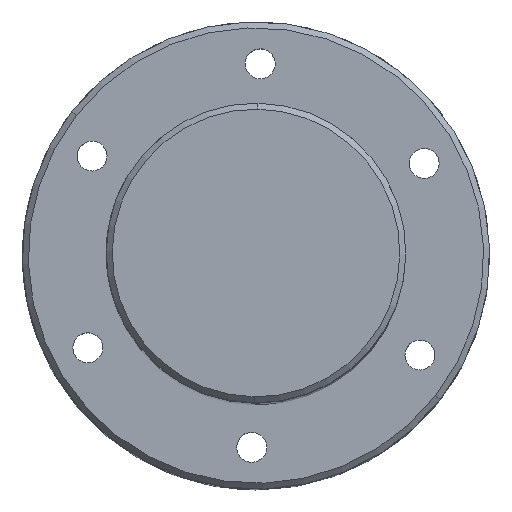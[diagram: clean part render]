
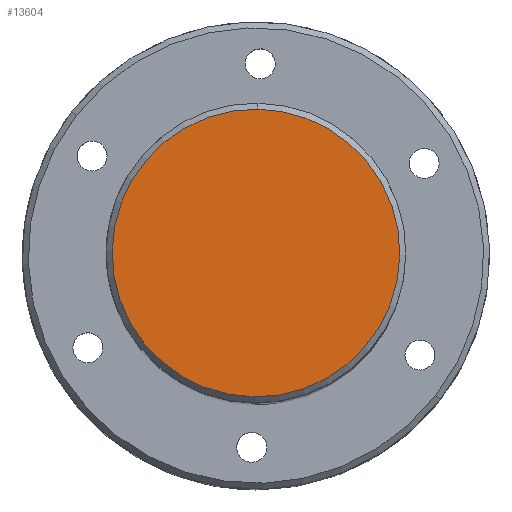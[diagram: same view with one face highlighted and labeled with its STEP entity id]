
A CAD part, top view. The second image highlights one B-rep face of the part: STEP entity #13604.
In plain terms, the highlighted planar face has unit normal (0, 0, 1) as drawn and (-1, 0, 0) by its records, which use the part's own axes.
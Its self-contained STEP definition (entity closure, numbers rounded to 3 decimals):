
#424 = VERTEX_POINT ( 'NONE', #14175 ) ;
#1776 = ORIENTED_EDGE ( 'NONE', *, *, #16249, .T. ) ;
#2047 = CIRCLE ( 'NONE', #21408, 24. ) ;
#4966 = FACE_OUTER_BOUND ( 'NONE', #14640, .T. ) ;
#5785 = ORIENTED_EDGE ( 'NONE', *, *, #13068, .T. ) ;
#6784 = CIRCLE ( 'NONE', #10252, 24. ) ;
#8212 = DIRECTION ( 'NONE',  ( -1., 0., 0. ) ) ;
#9084 = CARTESIAN_POINT ( 'NONE',  ( 0., 0., 24. ) ) ;
#10252 = AXIS2_PLACEMENT_3D ( 'NONE', #17484, #10749, #15713 ) ;
#10301 = AXIS2_PLACEMENT_3D ( 'NONE', #14053, #10725, #10797 ) ;
#10725 = DIRECTION ( 'NONE',  ( 1., 0., 0. ) ) ;
#10726 = VERTEX_POINT ( 'NONE', #9084 ) ;
#10749 = DIRECTION ( 'NONE',  ( -1., 0., 0. ) ) ;
#10797 = DIRECTION ( 'NONE',  ( 0., 0., -1. ) ) ;
#11737 = CARTESIAN_POINT ( 'NONE',  ( 0., 0., 0. ) ) ;
#12349 = PLANE ( 'NONE',  #10301 ) ;
#13068 = EDGE_CURVE ( 'NONE', #10726, #424, #2047, .T. ) ;
#13604 = ADVANCED_FACE ( 'NONE', ( #4966 ), #12349, .F. ) ;
#14053 = CARTESIAN_POINT ( 'NONE',  ( 0., 0., 0. ) ) ;
#14175 = CARTESIAN_POINT ( 'NONE',  ( 0., 0., -24. ) ) ;
#14640 = EDGE_LOOP ( 'NONE', ( #1776, #5785 ) ) ;
#15713 = DIRECTION ( 'NONE',  ( 0., 0., -1. ) ) ;
#16249 = EDGE_CURVE ( 'NONE', #424, #10726, #6784, .T. ) ;
#17484 = CARTESIAN_POINT ( 'NONE',  ( 0., 0., 0. ) ) ;
#20054 = DIRECTION ( 'NONE',  ( 0., 0., -1. ) ) ;
#21408 = AXIS2_PLACEMENT_3D ( 'NONE', #11737, #8212, #20054 ) ;
